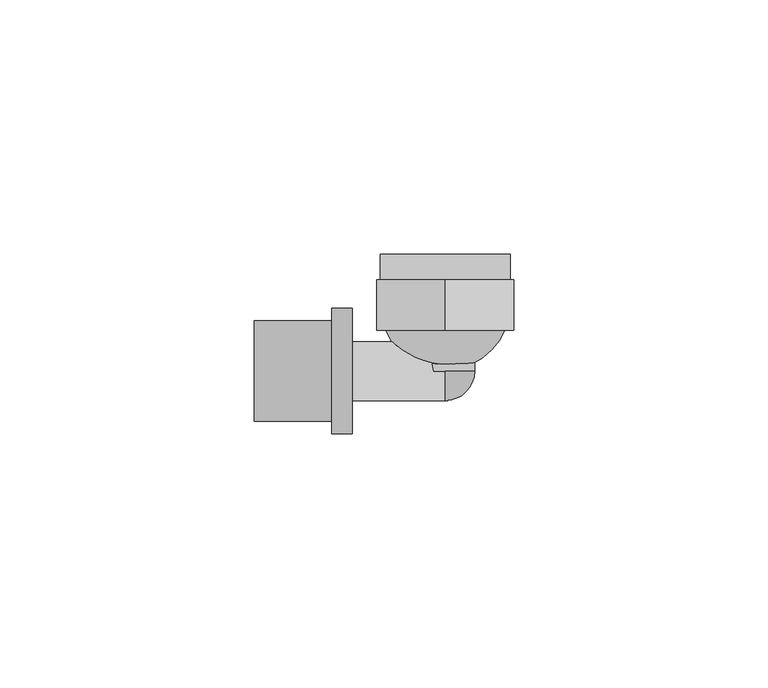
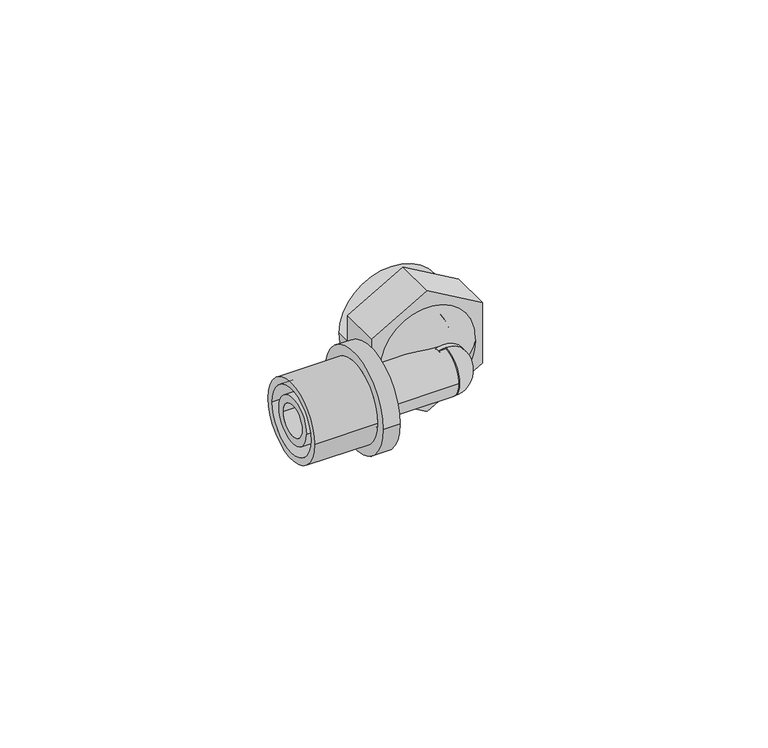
"""IFC4 building model written with IfcOpenShell, lengths in millimetres: pipe fitting geometry, FASTLOC_Elbow with female thread EX+ : FSL A internal AT."""

import ifcopenshell
import ifcopenshell.guid

model = None  # the IFC model being written
_history = None  # IfcOwnerHistory: only IFC2X3 demands one
_inside = {}  # id of a spatial element -> (the spatial element, [elements in it])
_under = {}  # id of a project, library or spatial element -> (it, [spatial elements below it])
_declared = {}  # id of a project -> (the project, [libraries it declares])
_typed = {}  # id of a type object -> (the type object, [elements of that type])
_made_of = {}  # id of a material, layer set ... -> (it, [elements and type objects made of it])


def new_model(schema):
    """Start an empty IFC model of exactly this schema.

    Asked for "IFC4X3", IfcOpenShell would pick the latest addendum, in which some entities
    have other attributes; the version numbers below select the first issue.
    IFC2X3 requires an IfcOwnerHistory on every rooted entity: one is made here for all.
    """
    global model, _history
    if schema == "IFC4X3":
        model = ifcopenshell.file(schema_version=(4, 3, 0, 0))
    else:
        model = ifcopenshell.file(schema=schema)
    _inside.clear()
    _under.clear()
    _declared.clear()
    _typed.clear()
    _made_of.clear()
    _history = None
    if model.schema == "IFC2X3":
        org = make("IfcOrganization", Name="unknown")
        user = make(
            "IfcPersonAndOrganization",
            ThePerson=make("IfcPerson", FamilyName="unknown"),
            TheOrganization=org,
        )
        app = make(
            "IfcApplication",
            ApplicationDeveloper=org,
            Version="unknown",
            ApplicationFullName="unknown",
            ApplicationIdentifier="unknown",
        )
        _history = make(
            "IfcOwnerHistory",
            OwningUser=user,
            OwningApplication=app,
            ChangeAction="ADDED",
            CreationDate=0,
        )
    return model


def make(cls, **values):
    """One entity of the class cls with the attributes given. An attribute that is None is left unset."""
    return model.create_entity(
        cls, **{name: value for name, value in values.items() if value is not None}
    )


def rooted(cls, **values):
    """An entity with a GlobalId (a new one), such as an element, a storey or a relation."""
    return make(cls, GlobalId=ifcopenshell.guid.new(), OwnerHistory=_history, **values)


def si_unit(unit_type, name, prefix=None):
    """IfcSIUnit, for example si_unit("LENGTHUNIT", "METRE", prefix="MILLI")."""
    return make("IfcSIUnit", UnitType=unit_type, Prefix=prefix, Name=name)


def assignment(units):
    """IfcUnitAssignment: the units of a project."""
    return None if units is None else make("IfcUnitAssignment", Units=units)


def point(xyz):
    """IfcCartesianPoint."""
    return None if xyz is None else make("IfcCartesianPoint", Coordinates=xyz)


def direction(xyz):
    """IfcDirection."""
    return None if xyz is None else make("IfcDirection", DirectionRatios=xyz)


def frame(location, z_axis=None, x_axis=None):
    """IfcAxis2Placement3D, a coordinate frame: its origin and axes. An axis left out is left unset."""
    return make(
        "IfcAxis2Placement3D",
        Location=point(location),
        Axis=direction(z_axis),
        RefDirection=direction(x_axis),
    )


def frame_2d(location, x_axis=None):
    """IfcAxis2Placement2D, a coordinate frame in the plane: its origin and x axis."""
    return make(
        "IfcAxis2Placement2D", Location=point(location), RefDirection=direction(x_axis)
    )


def origin():
    """The frame at (0, 0, 0) with its axes left unset."""
    return frame((0.0, 0.0, 0.0))


def origin_2d():
    """The frame at (0, 0) in the plane with its x axis left unset."""
    return frame_2d((0.0, 0.0))


def place(relative_to, where):
    """IfcLocalPlacement: puts the frame where relative to a parent placement (None: the world)."""
    return make(
        "IfcLocalPlacement", PlacementRelTo=relative_to, RelativePlacement=where
    )


def context(
    kind, dimensions, precision=None, world=None, true_north=None, identifier=None
):
    """IfcGeometricRepresentationContext, for example the 3D "Model" context."""
    return make(
        "IfcGeometricRepresentationContext",
        ContextIdentifier=identifier,
        ContextType=kind,
        CoordinateSpaceDimension=dimensions,
        Precision=precision,
        WorldCoordinateSystem=world,
        TrueNorth=true_north,
    )


def project(units=None, contexts=None):
    """IfcProject with its units and contexts."""
    return rooted(
        "IfcProject",
        Name="project",
        RepresentationContexts=contexts,
        UnitsInContext=assignment(units),
    )


def spatial(cls, under=None, at=None, **own):
    """A site, building, storey or space (cls), placed at a placement, below another one or the project."""
    s = rooted(cls, ObjectPlacement=at, **own)
    if under is not None:
        _under.setdefault(under.id(), (under, []))[1].append(s)
    return s


def polyline(points):
    """IfcPolyline through the points."""
    return make("IfcPolyline", Points=[point(p) for p in points])


def circle_curve(where, radius):
    """IfcCircle in the frame where."""
    return make("IfcCircle", Position=where, Radius=radius)


def ellipse_curve(where, semi_axis1, semi_axis2):
    """IfcEllipse in the frame where."""
    return make(
        "IfcEllipse", Position=where, SemiAxis1=semi_axis1, SemiAxis2=semi_axis2
    )


def trimmed(basis, trim1, trim2, sense, master):
    """IfcTrimmedCurve: the piece of a basis curve between two trims."""
    return make(
        "IfcTrimmedCurve",
        BasisCurve=basis,
        Trim1=trim1,
        Trim2=trim2,
        SenseAgreement=sense,
        MasterRepresentation=master,
    )


def segment(curve, same_sense, transition):
    """IfcCompositeCurveSegment."""
    return make(
        "IfcCompositeCurveSegment",
        Transition=transition,
        SameSense=same_sense,
        ParentCurve=curve,
    )


def composite_curve(segments, self_intersect=None):
    """IfcCompositeCurve: segments joined end to end."""
    return make("IfcCompositeCurve", Segments=segments, SelfIntersect=self_intersect)


def outline(outer, holes=None, kind="AREA"):
    """IfcArbitraryClosedProfileDef: a profile drawn as a closed curve; with holes, ...WithVoids."""
    if holes is None:
        return make("IfcArbitraryClosedProfileDef", ProfileType=kind, OuterCurve=outer)
    return make(
        "IfcArbitraryProfileDefWithVoids",
        ProfileType=kind,
        OuterCurve=outer,
        InnerCurves=holes,
    )


def extrude(swept, where, along, depth):
    """IfcExtrudedAreaSolid: the profile swept, set in the frame where, extruded along a direction by depth."""
    return make(
        "IfcExtrudedAreaSolid",
        SweptArea=swept,
        Position=where,
        ExtrudedDirection=direction(along),
        Depth=depth,
    )


def shape(context_of_items, identifier, shape_type, items):
    """IfcShapeRepresentation: the items that make up one representation, for example the "Body"."""
    return make(
        "IfcShapeRepresentation",
        ContextOfItems=context_of_items,
        RepresentationIdentifier=identifier,
        RepresentationType=shape_type,
        Items=items,
    )


def source(mapping_origin, context_of_items, identifier, shape_type, items):
    """IfcRepresentationMap: a shape defined once, which mapped items show again and again."""
    return make(
        "IfcRepresentationMap",
        MappingOrigin=mapping_origin,
        MappedRepresentation=shape(context_of_items, identifier, shape_type, items),
    )


def transform(
    local_origin,
    x_axis=None,
    y_axis=None,
    z_axis=None,
    scale=None,
    scale2=None,
    scale3=None,
    uniform=True,
):
    """IfcCartesianTransformationOperator3D, or its non-uniform kind. x_axis, y_axis, z_axis: its Axis1, 2, 3."""
    if uniform:
        return make(
            "IfcCartesianTransformationOperator3D",
            Axis1=direction(x_axis),
            Axis2=direction(y_axis),
            LocalOrigin=point(local_origin),
            Scale=scale,
            Axis3=direction(z_axis),
        )
    return make(
        "IfcCartesianTransformationOperator3DnonUniform",
        Axis1=direction(x_axis),
        Axis2=direction(y_axis),
        LocalOrigin=point(local_origin),
        Scale=scale,
        Axis3=direction(z_axis),
        Scale2=scale2,
        Scale3=scale3,
    )


def mapped(mapping_source, mapping_target):
    """IfcMappedItem: shows the shape of a source again, moved by a transform."""
    return make(
        "IfcMappedItem", MappingSource=mapping_source, MappingTarget=mapping_target
    )


def made_of(thing, what):
    """Note that an element or type object is made of a material, layer set ...; save() writes the relation."""
    if what is not None:
        _made_of.setdefault(what.id(), (what, []))[1].append(thing)
    return thing


def element(
    cls,
    number,
    at=None,
    inside=None,
    cuts=None,
    type_object=None,
    material=None,
    context=None,
    identifier="Body",
    shape_type=None,
    held_by="IfcProductDefinitionShape",
    body=None,
    shapes=None,
    **own,
):
    """One element of the class cls, such as IfcWall. Its Tag is "e" and its number.

    at: its placement. inside: the storey or other place that contains it. cuts: it is an
    opening in that element (IfcRelVoidsElement). A single representation is given by context,
    identifier, shape_type and body (its items); several are given by shapes. held_by: the class
    of the entity that holds the representations. save() writes the other relations.
    """
    e = rooted(cls, Tag="e%d" % number, ObjectPlacement=at, **own)
    if body is not None:
        shapes = [shape(context, identifier, shape_type, body)]
    if shapes is not None:
        e.Representation = make(held_by, Representations=shapes)
    if inside is not None:
        _inside.setdefault(inside.id(), (inside, []))[1].append(e)
    if cuts is not None:
        rooted(
            "IfcRelVoidsElement", RelatingBuildingElement=cuts, RelatedOpeningElement=e
        )
    if type_object is not None:
        _typed.setdefault(type_object.id(), (type_object, []))[1].append(e)
    return made_of(e, material)


def aggregate(whole, parts):
    """IfcRelAggregates: a whole, such as a stair, and the parts it consists of."""
    return rooted("IfcRelAggregates", RelatingObject=whole, RelatedObjects=parts)


def save(model, path):
    """Write the relations noted so far, then the file.

    IfcRelAggregates (storeys below a building ...), IfcRelContainedInSpatialStructure (elements
    in a storey), IfcRelDefinesByType, IfcRelAssociatesMaterial and IfcRelDeclares: one each for
    every whole, place, type object, material and project.
    """
    for whole, parts in _under.values():
        aggregate(whole, parts)
    for where, things in _inside.values():
        rooted(
            "IfcRelContainedInSpatialStructure",
            RelatedElements=things,
            RelatingStructure=where,
        )
    for kind, things in _typed.values():
        rooted("IfcRelDefinesByType", RelatedObjects=things, RelatingType=kind)
    for what, things in _made_of.values():
        rooted("IfcRelAssociatesMaterial", RelatedObjects=things, RelatingMaterial=what)
    for by, libraries in _declared.values():
        rooted("IfcRelDeclares", RelatingContext=by, RelatedDefinitions=libraries)
    model.write(path)


def plane_surface(at):
    """IfcPlane: the flat surface through the origin of the frame at, square to its z axis."""
    return make("IfcPlane", Position=at)


def cylinder_surface(at, radius):
    """IfcCylindricalSurface: all points at the distance radius from the z axis of the frame at."""
    return make("IfcCylindricalSurface", Position=at, Radius=radius)


def revolved_surface(curve, axis_point, axis_direction):
    """IfcSurfaceOfRevolution: the curve turned about the line through axis_point along axis_direction."""
    return make(
        "IfcSurfaceOfRevolution",
        SweptCurve=make("IfcArbitraryOpenProfileDef", ProfileType="CURVE", Curve=curve),
        AxisPosition=make("IfcAxis1Placement", Location=point(axis_point), Axis=direction(axis_direction)),
    )


def advanced_brep(points, edges, surfaces, faces):
    """IfcAdvancedBrep: a solid bounded by faces that lie on surfaces and meet in shared edges.

    An edge is (start, end): straight between two places in points (the first is 0);
    or (start, end, curve); or (start, end, curve, False) where it runs against its curve.
    A face is (place in surfaces, loops), or (place, loops, False) where it looks against
    its surface's normal. A loop lists edges by number (the first is 1), with a minus sign
    where the edge is run from its end to its start. The first loop is the outer one.
    """
    corners = [point(p) for p in points]
    vertices = [make("IfcVertexPoint", VertexGeometry=c) for c in corners]
    made = []
    for start, end, *more in edges:
        made.append(
            make(
                "IfcEdgeCurve",
                EdgeStart=vertices[start],
                EdgeEnd=vertices[end],
                EdgeGeometry=more[0] if more else make("IfcPolyline", Points=[corners[start], corners[end]]),
                SameSense=more[1] if len(more) > 1 else True,
            )
        )
    hull = []
    for where, loops, *sense in faces:
        bounds = []
        for j, loop in enumerate(loops):
            ring = [make("IfcOrientedEdge", EdgeElement=made[abs(k) - 1], Orientation=k > 0) for k in loop]
            bounds.append(
                make(
                    "IfcFaceOuterBound" if j == 0 else "IfcFaceBound",
                    Bound=make("IfcEdgeLoop", EdgeList=ring),
                    Orientation=True,
                )
            )
        hull.append(make("IfcAdvancedFace", Bounds=bounds, FaceSurface=surfaces[where], SameSense=sense[0] if sense else True))
    return make("IfcAdvancedBrep", Outer=make("IfcClosedShell", CfsFaces=hull))


def pipe_fitting_11a16acd(model_context):
    return source(origin(), model_context, "Body", "SolidModel", [
        advanced_brep(
        [(-22.3, -12.35, 0.0), (-22.3, 12.35, 0.0), (-18.3, 12.35, 0.0), (-18.3, -12.35, 0.0), (-37.6, -9.85, 0.0), (-37.6, 9.85, 0.0), (-22.3, 9.85, 0.0), (-22.3, -9.85, 0.0), (-18.3, -8.15, 0.0), (-18.3, 8.15, 0.0), (-37.6, 8.15, 0.0), (-37.6, -8.15, 0.0)],
        [
            (0, 1, circle_curve(frame((-22.3, 0.0, 0.0), z_axis=(1.0, 0.0, 0.0), x_axis=(0.0, 1.0, 0.0)), 12.35)),
            (1, 2),
            (2, 3, circle_curve(frame((-18.3, 0.0, 0.0), z_axis=(-1.0, 0.0, 0.0), x_axis=(0.0, 1.0, 0.0)), 12.35)),
            (3, 0),
            (4, 5, circle_curve(frame((-37.6, 0.0, 0.0), z_axis=(1.0, 0.0, 0.0), x_axis=(0.0, 1.0, 0.0)), 9.85)),
            (5, 6),
            (6, 7, circle_curve(frame((-22.3, 0.0, 0.0), z_axis=(-1.0, 0.0, 0.0), x_axis=(0.0, 1.0, 0.0)), 9.85)),
            (7, 4),
            (8, 9, circle_curve(frame((-18.3, 0.0, 0.0), z_axis=(1.0, 0.0, 0.0), x_axis=(0.0, 1.0, 0.0)), 8.15)),
            (9, 10),
            (10, 11, circle_curve(frame((-37.6, 0.0, 0.0), z_axis=(-1.0, 0.0, 0.0), x_axis=(0.0, 1.0, 0.0)), 8.15)),
            (11, 8),
            (1, 0, circle_curve(frame((-22.3, 0.0, 0.0), z_axis=(1.0, 0.0, 0.0), x_axis=(0.0, -1.0, 0.0)), 12.35)),
            (3, 2, circle_curve(frame((-18.3, 0.0, 0.0), z_axis=(-1.0, 0.0, 0.0), x_axis=(0.0, -1.0, 0.0)), 12.35)),
            (6, 7, circle_curve(frame((-22.3, 0.0, 0.0), z_axis=(1.0, 0.0, 0.0), x_axis=(0.0, -1.0, 0.0)), 9.85)),
            (5, 4, circle_curve(frame((-37.6, 0.0, 0.0), z_axis=(1.0, 0.0, 0.0), x_axis=(0.0, -1.0, 0.0)), 9.85)),
            (10, 11, circle_curve(frame((-37.6, 0.0, 0.0), z_axis=(1.0, 0.0, 0.0), x_axis=(0.0, -1.0, 0.0)), 8.15)),
            (9, 8, circle_curve(frame((-18.3, 0.0, 0.0), z_axis=(1.0, 0.0, 0.0), x_axis=(0.0, -1.0, 0.0)), 8.15)),
        ],
        [
            cylinder_surface(frame((-18.3, 0.0, 0.0), z_axis=(-1.0, 0.0, 0.0), x_axis=(0.0, 1.0, 0.0)), 12.35),
            cylinder_surface(frame((-18.3, 0.0, 0.0), z_axis=(-1.0, 0.0, 0.0), x_axis=(0.0, 1.0, 0.0)), 9.85),
            revolved_surface(polyline([(-37.6, 8.15, 0.0), (-18.3, 8.15, 0.0)]), (-18.3, 0.0, 0.0), (-1.0, 0.0, 0.0)),
            cylinder_surface(frame((-18.3, 0.0, 0.0), z_axis=(-1.0, 0.0, 0.0), x_axis=(0.0, -1.0, 0.0)), 12.35),
            plane_surface(frame((-22.3, 0.0, 0.0), z_axis=(-1.0, 0.0, 0.0), x_axis=(0.0, -1.0, 0.0))),
            cylinder_surface(frame((-18.3, 0.0, 0.0), z_axis=(-1.0, 0.0, 0.0), x_axis=(0.0, -1.0, 0.0)), 9.85),
            plane_surface(frame((-37.6, 0.0, 0.0), z_axis=(-1.0, 0.0, 0.0), x_axis=(0.0, -1.0, 0.0))),
            revolved_surface(polyline([(-37.6, -8.15, 0.0), (-18.3, -8.15, 0.0)]), (-18.3, 0.0, 0.0), (-1.0, 0.0, 0.0)),
            plane_surface(frame((-18.3, 0.0, 0.0), z_axis=(1.0, 0.0, 0.0), x_axis=(0.0, -1.0, 0.0))),
        ],
        [
            (0, [[1, 2, 3, 4]]),
            (1, [[5, 6, 7, 8]]),
            (2, [[9, 10, 11, 12]]),
            (3, [[13, -4, 14, -2]]),
            (4, [[-13, -1], [15, -7]]),
            (5, [[16, -8, -15, -6]]),
            (6, [[-16, -5], [17, -11]]),
            (7, [[18, -12, -17, -10]]),
            (8, [[-14, -3], [-18, -9]]),
        ],
    ),
        advanced_brep(
        [(0.0, 0.0, 5.8), (0.0, 0.0, 2.9), (0.0, -2.9, 0.0), (0.0, -5.8, 0.0), (0.0, 0.0, -5.8), (0.0, 0.0, -2.9)],
        [
            (0, 1),
            (1, 2, circle_curve(frame((0.0, 0.0, 0.0), z_axis=(1.0, 0.0, 0.0), x_axis=(0.0, 0.0, 1.0)), 2.9)),
            (2, 3),
            (3, 0, circle_curve(frame((0.0, 0.0, 0.0), z_axis=(-1.0, 0.0, 0.0), x_axis=(0.0, 0.0, 1.0)), 5.8)),
            (4, 3, circle_curve(frame((0.0, 0.0, 0.0), z_axis=(-1.0, 0.0, 0.0), x_axis=(0.0, 0.0, -1.0)), 5.8)),
            (2, 5, circle_curve(frame((0.0, 0.0, 0.0), z_axis=(1.0, 0.0, 0.0), x_axis=(0.0, 0.0, -1.0)), 2.9)),
            (5, 4),
            (5, 1, circle_curve(frame((0.0, 0.0, 0.0), z_axis=(0.0, -1.0, 0.0), x_axis=(0.0, 0.0, 1.0)), 2.9)),
            (0, 4, circle_curve(frame((0.0, 0.0, 0.0), z_axis=(0.0, 1.0, 0.0), x_axis=(0.0, 0.0, 1.0)), 5.8)),
        ],
        [
            plane_surface(frame((0.0, 0.0, 0.0), z_axis=(-1.0, 0.0, 0.0), x_axis=(0.0, 0.0, 1.0))),
            plane_surface(frame((0.0, 0.0, 0.0), z_axis=(-1.0, 0.0, 0.0), x_axis=(0.0, 0.0, -1.0))),
            plane_surface(frame((0.0, 0.0, 0.0), z_axis=(0.0, 1.0, 0.0), x_axis=(0.0, 0.0, 1.0))),
            revolved_surface(trimmed(ellipse_curve(frame((0.0, 0.0, 0.0), z_axis=(1.0, 0.0, 0.0), x_axis=(0.0, 0.0, 1.0)), 2.9, 2.9), [point((0.0, 0.0, 2.9))], [point((0.0, -2.9, 0.0))], True, "CARTESIAN"), (0.0, 0.0, 0.0), (0.0, 1.0, 0.0)),
            revolved_surface(trimmed(ellipse_curve(frame((0.0, 0.0, 0.0), z_axis=(-1.0, 0.0, 0.0), x_axis=(0.0, 0.0, 1.0)), 5.8, 5.8), [point((0.0, -5.8, 0.0))], [point((0.0, 0.0, 5.8))], True, "CARTESIAN"), (0.0, 0.0, 0.0), (0.0, 1.0, 0.0)),
        ],
        [
            (0, [[1, 2, 3, 4]]),
            (1, [[5, -3, 6, 7]]),
            (2, [[8, -1, 9, -7]]),
            (3, [[-2, -8, -6]]),
            (4, [[-9, -4, -5]]),
        ],
    ),
        extrude(outline(polyline([(-7.7942286, 13.5), (7.7942286, 13.5), (15.5884573, 0.0), (7.7942286, -13.5), (-7.7942286, -13.5), (-15.5884573, 0.0), (-7.7942286, 13.5)])), frame((0.0, 8.0, 0.0), z_axis=(0.0, 1.0, 0.0), x_axis=(0.0, 0.0, 1.0)), (0.0, 0.0, 1.0), 10.0),
        advanced_brep(
        [(0.5, 0.2598077, 0.0), (-0.5, 0.2598077, 0.0), (-12.75, 13.0, 0.0), (12.75, 13.0, 0.0), (0.5, 5.5166852, 0.0), (-0.5, 5.5166852, 0.0), (7.5, 13.0, 0.0), (-7.5, 13.0, 0.0), (7.5, 23.0, 0.0), (-7.5, 23.0, 0.0), (-12.75, 23.0, 0.0), (12.75, 23.0, 0.0)],
        [
            (0, 1, circle_curve(frame((0.0, 0.2598077, 0.0), z_axis=(0.0, 1.0, 0.0), x_axis=(-1.0, 0.0, 0.0)), 0.5)),
            (1, 2, circle_curve(frame((0.0, 13.0, 0.0), z_axis=(0.0, 0.0, -1.0), x_axis=(0.0, 1.0, 0.0)), 12.75)),
            (2, 3, circle_curve(frame((0.0, 13.0, 0.0), z_axis=(0.0, -1.0, 0.0), x_axis=(-1.0, 0.0, 0.0)), 12.75)),
            (3, 0, circle_curve(frame((0.0, 13.0, 0.0), z_axis=(0.0, 0.0, -1.0), x_axis=(0.0, 1.0, 0.0)), 12.75)),
            (4, 5, circle_curve(frame((0.0, 5.5166852, 0.0), z_axis=(0.0, 1.0, 0.0), x_axis=(-1.0, 0.0, 0.0)), 0.5)),
            (5, 1),
            (0, 4),
            (6, 7, circle_curve(frame((0.0, 13.0, 0.0), z_axis=(0.0, 1.0, 0.0), x_axis=(-1.0, 0.0, 0.0)), 7.5)),
            (7, 5, circle_curve(frame((0.0, 13.0, 0.0), z_axis=(0.0, 0.0, 1.0), x_axis=(0.0, 1.0, 0.0)), 7.5)),
            (4, 6, circle_curve(frame((0.0, 13.0, 0.0), z_axis=(0.0, 0.0, 1.0), x_axis=(0.0, 1.0, 0.0)), 7.5)),
            (8, 9, circle_curve(frame((0.0, 23.0, 0.0), z_axis=(0.0, 1.0, 0.0), x_axis=(-1.0, 0.0, 0.0)), 7.5)),
            (9, 7),
            (6, 8),
            (2, 10),
            (10, 11, circle_curve(frame((0.0, 23.0, 0.0), z_axis=(0.0, -1.0, 0.0), x_axis=(-1.0, 0.0, 0.0)), 12.75)),
            (11, 3),
            (1, 0, circle_curve(frame((0.0, 0.2598077, 0.0), z_axis=(0.0, 1.0, 0.0), x_axis=(1.0, 0.0, 0.0)), 0.5)),
            (3, 2, circle_curve(frame((0.0, 13.0, 0.0), z_axis=(0.0, -1.0, 0.0), x_axis=(1.0, 0.0, 0.0)), 12.75)),
            (5, 4, circle_curve(frame((0.0, 5.5166852, 0.0), z_axis=(0.0, 1.0, 0.0), x_axis=(1.0, 0.0, 0.0)), 0.5)),
            (7, 6, circle_curve(frame((0.0, 13.0, 0.0), z_axis=(0.0, 1.0, 0.0), x_axis=(1.0, 0.0, 0.0)), 7.5)),
            (9, 8, circle_curve(frame((0.0, 23.0, 0.0), z_axis=(0.0, 1.0, 0.0), x_axis=(1.0, 0.0, 0.0)), 7.5)),
            (10, 11, circle_curve(frame((0.0, 23.0, 0.0), z_axis=(0.0, 1.0, 0.0), x_axis=(1.0, 0.0, 0.0)), 12.75)),
        ],
        [
            revolved_surface(trimmed(ellipse_curve(frame((0.0, 13.0, 0.0), z_axis=(0.0, 0.0, 1.0), x_axis=(0.0, 1.0, 0.0)), 12.75, 12.75), [point((-12.75, 13.0, 0.0))], [point((-0.5, 0.2598077, 0.0))], True, "CARTESIAN"), (0.0, 8.0, 0.0), (0.0, -1.0, 0.0)),
            revolved_surface(polyline([(-0.5, 0.25980769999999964, 0.0), (-0.5, 5.5166852, 0.0)]), (0.0, 8.0, 0.0), (0.0, -1.0, 0.0)),
            revolved_surface(trimmed(ellipse_curve(frame((0.0, 13.0, 0.0), z_axis=(0.0, 0.0, -1.0), x_axis=(0.0, 1.0, 0.0)), 7.5, 7.5), [point((-0.5, 5.5166852, 0.0))], [point((-7.5, 13.0, 0.0))], True, "CARTESIAN"), (0.0, 8.0, 0.0), (0.0, -1.0, 0.0)),
            revolved_surface(polyline([(-7.5, 13.0, 0.0), (-7.5, 23.0, 0.0)]), (0.0, 8.0, 0.0), (0.0, -1.0, 0.0)),
            cylinder_surface(frame((0.0, 8.0, 0.0), z_axis=(0.0, -1.0, 0.0), x_axis=(-1.0, 0.0, 0.0)), 12.75),
            revolved_surface(trimmed(ellipse_curve(frame((0.0, 13.0, 0.0), z_axis=(0.0, 0.0, -1.0), x_axis=(0.0, 1.0, 0.0)), 12.75, 12.75), [point((12.75, 13.0, 0.0))], [point((0.5, 0.2598077, 0.0))], True, "CARTESIAN"), (0.0, 8.0, 0.0), (0.0, -1.0, 0.0)),
            revolved_surface(polyline([(0.5, 0.25980769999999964, 0.0), (0.5, 5.5166852, 0.0)]), (0.0, 8.0, 0.0), (0.0, -1.0, 0.0)),
            revolved_surface(trimmed(ellipse_curve(frame((0.0, 13.0, 0.0), z_axis=(0.0, 0.0, 1.0), x_axis=(0.0, 1.0, 0.0)), 7.5, 7.5), [point((0.5, 5.5166852, 0.0))], [point((7.5, 13.0, 0.0))], True, "CARTESIAN"), (0.0, 8.0, 0.0), (0.0, -1.0, 0.0)),
            revolved_surface(polyline([(7.5, 13.0, 0.0), (7.5, 23.0, 0.0)]), (0.0, 8.0, 0.0), (0.0, -1.0, 0.0)),
            plane_surface(frame((0.0, 23.0, 0.0), z_axis=(0.0, 1.0, 0.0), x_axis=(1.0, 0.0, 0.0))),
            cylinder_surface(frame((0.0, 8.0, 0.0), z_axis=(0.0, -1.0, 0.0), x_axis=(1.0, 0.0, 0.0)), 12.75),
        ],
        [
            (0, [[1, 2, 3, 4]]),
            (1, [[5, 6, -1, 7]]),
            (2, [[8, 9, -5, 10]]),
            (3, [[11, 12, -8, 13]]),
            (4, [[-3, 14, 15, 16]]),
            (5, [[17, -4, 18, -2]]),
            (6, [[19, -7, -17, -6]]),
            (7, [[20, -10, -19, -9]]),
            (8, [[21, -13, -20, -12]]),
            (9, [[22, -15], [-21, -11]]),
            (10, [[-18, -16, -22, -14]]),
        ],
    ),
        extrude(outline(composite_curve([segment(trimmed(circle_curve(origin_2d(), 5.8), [point((0.0, -5.8))], [point((0.0, 5.8))], False, "CARTESIAN"), True, "CONTINUOUS"), segment(trimmed(circle_curve(origin_2d(), 5.8), [point((0.0, 5.8))], [point((0.0, -5.8))], False, "CARTESIAN"), True, "CONTINUOUS")], self_intersect=False), holes=[composite_curve([segment(trimmed(circle_curve(origin_2d(), 3.95), [point((0.0, -3.95))], [point((0.0, 3.95))], True, "CARTESIAN"), True, "CONTINUOUS"), segment(trimmed(circle_curve(origin_2d(), 3.95), [point((0.0, 3.95))], [point((0.0, -3.95))], True, "CARTESIAN"), True, "CONTINUOUS")], self_intersect=False)]), frame((0.0, 0.0, 0.0), z_axis=(0.0, 1.0, 0.0), x_axis=(0.0, 0.0, 1.0)), (0.0, 0.0, 1.0), 8.0),
        advanced_brep(
        [(-22.3, 5.8, 0.0), (-22.3, -5.8, 0.0), (-37.3, -5.8, 0.0), (-37.3, 5.8, 0.0), (-19.6, 6.9, 0.0), (-19.6, -6.9, 0.0), (-22.3, -6.9, 0.0), (-22.3, 6.9, 0.0), (0.0, 5.8, 0.0), (0.0, -5.8, 0.0), (-19.6, -5.8, 0.0), (-19.6, 5.8, 0.0), (-37.3, 3.95, 0.0), (-37.3, -3.95, 0.0), (0.0, -3.95, 0.0), (0.0, 3.95, 0.0)],
        [
            (0, 1, circle_curve(frame((-22.3, 0.0, 0.0), z_axis=(-1.0, 0.0, 0.0), x_axis=(0.0, -1.0, 0.0)), 5.8)),
            (1, 2),
            (2, 3, circle_curve(frame((-37.3, 0.0, 0.0), z_axis=(1.0, 0.0, 0.0), x_axis=(0.0, -1.0, 0.0)), 5.8)),
            (3, 0),
            (4, 5, circle_curve(frame((-19.6, 0.0, 0.0), z_axis=(-1.0, 0.0, 0.0), x_axis=(0.0, -1.0, 0.0)), 6.9)),
            (5, 6),
            (6, 7, circle_curve(frame((-22.3, 0.0, 0.0), z_axis=(1.0, 0.0, 0.0), x_axis=(0.0, -1.0, 0.0)), 6.9)),
            (7, 4),
            (8, 9, circle_curve(frame((0.0, 0.0, 0.0), z_axis=(-1.0, 0.0, 0.0), x_axis=(0.0, -1.0, 0.0)), 5.8)),
            (9, 10),
            (10, 11, circle_curve(frame((-19.6, 0.0, 0.0), z_axis=(1.0, 0.0, 0.0), x_axis=(0.0, -1.0, 0.0)), 5.8)),
            (11, 8),
            (12, 13, circle_curve(frame((-37.3, 0.0, 0.0), z_axis=(-1.0, 0.0, 0.0), x_axis=(0.0, -1.0, 0.0)), 3.95)),
            (13, 14),
            (14, 15, circle_curve(frame((0.0, 0.0, 0.0), z_axis=(1.0, 0.0, 0.0), x_axis=(0.0, -1.0, 0.0)), 3.95)),
            (15, 12),
            (2, 3, circle_curve(frame((-37.3, 0.0, 0.0), z_axis=(-1.0, 0.0, 0.0), x_axis=(0.0, 1.0, 0.0)), 5.8)),
            (12, 13, circle_curve(frame((-37.3, 0.0, 0.0), z_axis=(1.0, 0.0, 0.0), x_axis=(0.0, 1.0, 0.0)), 3.95)),
            (1, 0, circle_curve(frame((-22.3, 0.0, 0.0), z_axis=(-1.0, 0.0, 0.0), x_axis=(0.0, 1.0, 0.0)), 5.8)),
            (6, 7, circle_curve(frame((-22.3, 0.0, 0.0), z_axis=(-1.0, 0.0, 0.0), x_axis=(0.0, 1.0, 0.0)), 6.9)),
            (5, 4, circle_curve(frame((-19.6, 0.0, 0.0), z_axis=(-1.0, 0.0, 0.0), x_axis=(0.0, 1.0, 0.0)), 6.9)),
            (10, 11, circle_curve(frame((-19.6, 0.0, 0.0), z_axis=(-1.0, 0.0, 0.0), x_axis=(0.0, 1.0, 0.0)), 5.8)),
            (9, 8, circle_curve(frame((0.0, 0.0, 0.0), z_axis=(-1.0, 0.0, 0.0), x_axis=(0.0, 1.0, 0.0)), 5.8)),
            (14, 15, circle_curve(frame((0.0, 0.0, 0.0), z_axis=(-1.0, 0.0, 0.0), x_axis=(0.0, 1.0, 0.0)), 3.95)),
        ],
        [
            cylinder_surface(frame((0.0, 0.0, 0.0), z_axis=(1.0, 0.0, 0.0), x_axis=(0.0, -1.0, 0.0)), 5.8),
            cylinder_surface(frame((0.0, 0.0, 0.0), z_axis=(1.0, 0.0, 0.0), x_axis=(0.0, -1.0, 0.0)), 6.9),
            revolved_surface(polyline([(0.0, -3.95, 0.0), (-37.3, -3.95, 0.0)]), (0.0, 0.0, 0.0), (1.0, 0.0, 0.0)),
            plane_surface(frame((-37.3, 0.0, 0.0), z_axis=(-1.0, 0.0, 0.0), x_axis=(0.0, 1.0, 0.0))),
            cylinder_surface(frame((0.0, 0.0, 0.0), z_axis=(1.0, 0.0, 0.0), x_axis=(0.0, 1.0, 0.0)), 5.8),
            plane_surface(frame((-22.3, 0.0, 0.0), z_axis=(-1.0, 0.0, 0.0), x_axis=(0.0, 1.0, 0.0))),
            cylinder_surface(frame((0.0, 0.0, 0.0), z_axis=(1.0, 0.0, 0.0), x_axis=(0.0, 1.0, 0.0)), 6.9),
            plane_surface(frame((-19.6, 0.0, 0.0), z_axis=(1.0, 0.0, 0.0), x_axis=(0.0, 1.0, 0.0))),
            plane_surface(frame((0.0, 0.0, 0.0), z_axis=(1.0, 0.0, 0.0), x_axis=(0.0, 1.0, 0.0))),
            revolved_surface(polyline([(0.0, 3.95, 0.0), (-37.3, 3.95, 0.0)]), (0.0, 0.0, 0.0), (1.0, 0.0, 0.0)),
        ],
        [
            (0, [[1, 2, 3, 4]]),
            (1, [[5, 6, 7, 8]]),
            (0, [[9, 10, 11, 12]]),
            (2, [[13, 14, 15, 16]]),
            (3, [[17, -3], [18, -13]]),
            (4, [[19, -4, -17, -2]]),
            (5, [[20, -7], [-19, -1]]),
            (6, [[21, -8, -20, -6]]),
            (7, [[-21, -5], [22, -11]]),
            (4, [[23, -12, -22, -10]]),
            (8, [[-23, -9], [24, -15]]),
            (9, [[-18, -16, -24, -14]]),
        ],
    ),
    ])


if __name__ == "__main__":
    model = new_model("IFC4")
    model_context = context("Model", 3, world=origin())
    ifc_project = project(units=[si_unit("LENGTHUNIT", "METRE", prefix="MILLI")], contexts=[model_context])
    site = spatial("IfcSite", under=ifc_project)
    building = spatial("IfcBuilding", under=site)
    placement = place(None, origin())
    pipe_fitting_shape = pipe_fitting_11a16acd(model_context)
    element("IfcPipeFitting", 1, ObjectType="FASTLOC_Elbow with female thread EX+ : FSL A internal AT", at=placement, inside=building, context=model_context, shape_type="MappedRepresentation", body=[
        mapped(pipe_fitting_shape, transform((0.0, 0.0, 0.0), x_axis=(1.0, 0.0, 0.0), y_axis=(0.0, 1.0, 0.0), z_axis=(0.0, 0.0, 1.0))),
    ])
    save(model, "model.ifc")
